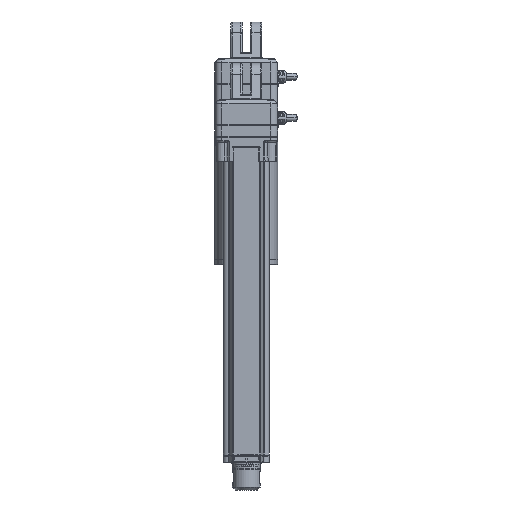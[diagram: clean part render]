
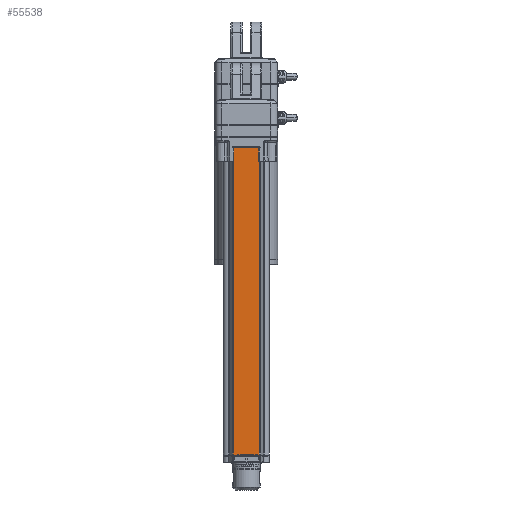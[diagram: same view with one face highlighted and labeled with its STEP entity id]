
A CAD part, front view. The second image highlights one B-rep face of the part: STEP entity #55538.
In plain terms, the highlighted planar face has unit normal (0, -1, 0).
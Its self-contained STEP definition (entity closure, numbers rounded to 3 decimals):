
#53 = LINE ( 'NONE', #79703, #36382 ) ;
#4991 = ORIENTED_EDGE ( 'NONE', *, *, #55623, .F. ) ;
#6472 = EDGE_CURVE ( 'NONE', #54931, #11317, #29260, .T. ) ;
#7120 = DIRECTION ( 'NONE',  ( 0., 0., -1. ) ) ;
#9198 = DIRECTION ( 'NONE',  ( 0., 0., -1. ) ) ;
#9291 = ORIENTED_EDGE ( 'NONE', *, *, #54653, .T. ) ;
#10530 = CARTESIAN_POINT ( 'NONE',  ( 9.246, -55.9, 13.914 ) ) ;
#10841 = CARTESIAN_POINT ( 'NONE',  ( -9.384, -55.895, -18. ) ) ;
#11317 = VERTEX_POINT ( 'NONE', #69962 ) ;
#11553 = B_SPLINE_CURVE_WITH_KNOTS ( 'NONE', 3,
 ( #76261, #61997, #75688, #48651 ),
 .UNSPECIFIED., .F., .F.,
 ( 4, 4 ),
 ( 0., 1. ),
 .UNSPECIFIED. ) ;
#15417 = ORIENTED_EDGE ( 'NONE', *, *, #21660, .T. ) ;
#17566 = EDGE_CURVE ( 'NONE', #57971, #11317, #65559, .T. ) ;
#19656 = ORIENTED_EDGE ( 'NONE', *, *, #6472, .T. ) ;
#21660 = EDGE_CURVE ( 'NONE', #52045, #33896, #54682, .T. ) ;
#22335 = CARTESIAN_POINT ( 'NONE',  ( -10.75, -55.9, -8.5 ) ) ;
#22403 = VECTOR ( 'NONE', #61781, 1000. ) ;
#27336 = ORIENTED_EDGE ( 'NONE', *, *, #79707, .T. ) ;
#28107 = CARTESIAN_POINT ( 'NONE',  ( -9.384, -55.9, -14.833 ) ) ;
#28582 = EDGE_CURVE ( 'NONE', #83476, #76161, #52309, .T. ) ;
#29147 = DIRECTION ( 'NONE',  ( 1., 0., 0. ) ) ;
#29260 = LINE ( 'NONE', #65315, #78124 ) ;
#30058 = EDGE_LOOP ( 'NONE', ( #48889, #15417, #27336, #19656, #76344, #4991, #43579, #9291 ) ) ;
#30659 = AXIS2_PLACEMENT_3D ( 'NONE', #55127, #48450, #55413 ) ;
#33896 = VERTEX_POINT ( 'NONE', #72030 ) ;
#33949 = CARTESIAN_POINT ( 'NONE',  ( -9.293, -55.9, -8.5 ) ) ;
#34974 = VECTOR ( 'NONE', #29147, 1000. ) ;
#35989 = FACE_OUTER_BOUND ( 'NONE', #30058, .T. ) ;
#36382 = VECTOR ( 'NONE', #7120, 1000. ) ;
#40323 = CARTESIAN_POINT ( 'NONE',  ( -9.384, -55.895, -18. ) ) ;
#43579 = ORIENTED_EDGE ( 'NONE', *, *, #28582, .F. ) ;
#45847 = DIRECTION ( 'NONE',  ( 1., 0., 0. ) ) ;
#47168 = CARTESIAN_POINT ( 'NONE',  ( -9.247, -55.9, -18. ) ) ;
#48450 = DIRECTION ( 'NONE',  ( 0., 1., 0. ) ) ;
#48651 = CARTESIAN_POINT ( 'NONE',  ( -9.247, -55.9, -18. ) ) ;
#48889 = ORIENTED_EDGE ( 'NONE', *, *, #77961, .T. ) ;
#48953 = CARTESIAN_POINT ( 'NONE',  ( 9.384, -55.9, -68.078 ) ) ;
#49363 = LINE ( 'NONE', #22335, #22403 ) ;
#52045 = VERTEX_POINT ( 'NONE', #64723 ) ;
#52309 = B_SPLINE_CURVE_WITH_KNOTS ( 'NONE', 3,
 ( #40323, #28107, #60857, #33949 ),
 .UNSPECIFIED., .F., .F.,
 ( 4, 4 ),
 ( 0., 1. ),
 .UNSPECIFIED. ) ;
#53678 = CARTESIAN_POINT ( 'NONE',  ( -9.293, -55.9, -8.5 ) ) ;
#54653 = EDGE_CURVE ( 'NONE', #83476, #65121, #11553, .T. ) ;
#54682 = LINE ( 'NONE', #68906, #34974 ) ;
#54931 = VERTEX_POINT ( 'NONE', #79978 ) ;
#55127 = CARTESIAN_POINT ( 'NONE',  ( -10., -55.9, 13.914 ) ) ;
#55413 = DIRECTION ( 'NONE',  ( 1., 0., 0. ) ) ;
#55538 = ADVANCED_FACE ( 'NONE', ( #35989 ), #55685, .F. ) ;
#55623 = EDGE_CURVE ( 'NONE', #76161, #57971, #49363, .T. ) ;
#55685 = PLANE ( 'NONE',  #30659 ) ;
#57971 = VERTEX_POINT ( 'NONE', #58366 ) ;
#58366 = CARTESIAN_POINT ( 'NONE',  ( 9.283, -55.9, -8.5 ) ) ;
#60857 = CARTESIAN_POINT ( 'NONE',  ( -9.384, -55.9, -11.667 ) ) ;
#61781 = DIRECTION ( 'NONE',  ( 1., 0., 0. ) ) ;
#61997 = CARTESIAN_POINT ( 'NONE',  ( -9.338, -55.9, -18. ) ) ;
#64723 = CARTESIAN_POINT ( 'NONE',  ( -9.247, -55.9, -227.987 ) ) ;
#65121 = VERTEX_POINT ( 'NONE', #47168 ) ;
#65315 = CARTESIAN_POINT ( 'NONE',  ( -10., -55.9, -18. ) ) ;
#65559 = LINE ( 'NONE', #48953, #68646 ) ;
#65738 = VECTOR ( 'NONE', #70582, 1000. ) ;
#68646 = VECTOR ( 'NONE', #9198, 1000. ) ;
#68906 = CARTESIAN_POINT ( 'NONE',  ( -10., -55.9, -227.987 ) ) ;
#69962 = CARTESIAN_POINT ( 'NONE',  ( 9.384, -55.9, -18. ) ) ;
#70582 = DIRECTION ( 'NONE',  ( 0., 0., 1. ) ) ;
#72030 = CARTESIAN_POINT ( 'NONE',  ( 9.246, -55.9, -227.987 ) ) ;
#75688 = CARTESIAN_POINT ( 'NONE',  ( -9.293, -55.9, -18. ) ) ;
#76161 = VERTEX_POINT ( 'NONE', #53678 ) ;
#76261 = CARTESIAN_POINT ( 'NONE',  ( -9.384, -55.895, -18. ) ) ;
#76344 = ORIENTED_EDGE ( 'NONE', *, *, #17566, .F. ) ;
#77961 = EDGE_CURVE ( 'NONE', #65121, #52045, #53, .T. ) ;
#78124 = VECTOR ( 'NONE', #45847, 1000. ) ;
#79703 = CARTESIAN_POINT ( 'NONE',  ( -9.247, -55.9, 13.914 ) ) ;
#79707 = EDGE_CURVE ( 'NONE', #33896, #54931, #83431, .T. ) ;
#79978 = CARTESIAN_POINT ( 'NONE',  ( 9.246, -55.9, -18. ) ) ;
#83431 = LINE ( 'NONE', #10530, #65738 ) ;
#83476 = VERTEX_POINT ( 'NONE', #10841 ) ;
